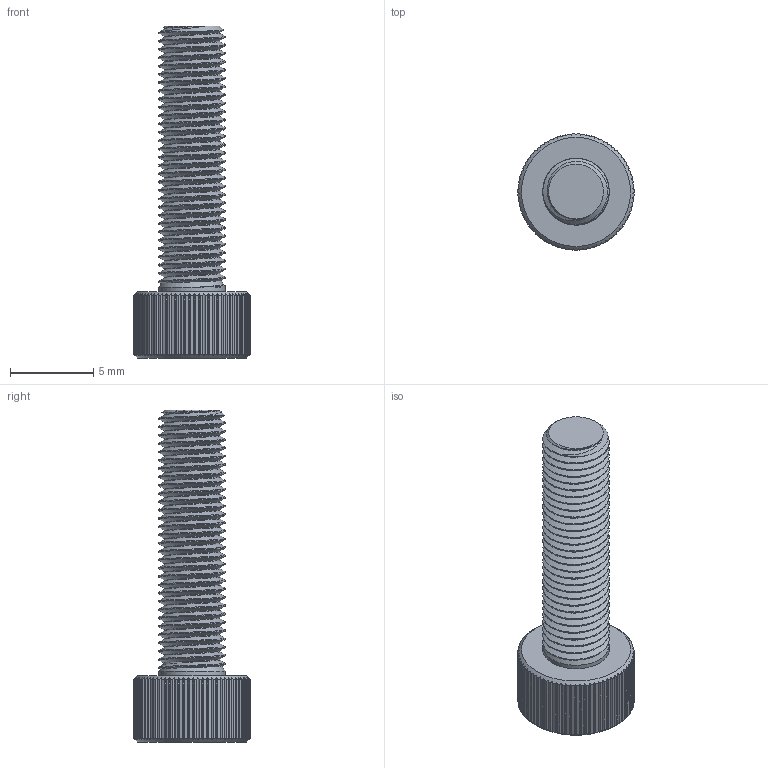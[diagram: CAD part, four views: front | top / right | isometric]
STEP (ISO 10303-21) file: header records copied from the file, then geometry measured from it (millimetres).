
FILE_DESCRIPTION(/* description */ ('STEP AP242 Edition 2','CAx-IF Rec.Pracs.---Representation and Presentation of Product Manufacturing Information (PMI)---4.0---2014-10-13','CAx-IF Rec.Pracs.---3D Tessellated Geometry---0.4---2014-09-14','2;1','CAx-IF Rec.Pracs.---User Defined Attributes---1.5---2016-08-15'),/* implementation_level */ '2;1');
FILE_NAME(/* name */ 'Main - M4 16mm (2)',/* time_stamp */ '2026-09-13T15:50:00Z',/* author */ (''),/* organization */ (''),/* preprocessor_version */ 'ST-DEVELOPER v20',/* originating_system */ 'ONSHAPE BY PTC INC, 1.220',/* authorisation */ ' ');
FILE_SCHEMA (('AP242_MANAGED_MODEL_BASED_3D_ENGINEERING_MIM_LF { 1 0 10303 442 3 1 4 }'));
Length unit declared in the file: metre
Products named in the file (1): M4 16mm
Bounding box: 7 x 7 x 20 mm (x, y, z)
Volume: 304.4 mm3; surface area: 512.1 mm2
Topology: 1 solids, 1 shells, 279 faces, 812 edges, 537 vertices
Faces by surface type: plane 160, cylinder 106, cone 10, bspline 3
Full cylindrical faces by diameter (mm): 4 x30
Entity records: 13751 total; most frequent: CARTESIAN_POINT 6782, DIRECTION 1655, ORIENTED_EDGE 1430, EDGE_CURVE 715, AXIS2_PLACEMENT_3D 709, VERTEX_POINT 474, CIRCLE 462, EDGE_LOOP 255
